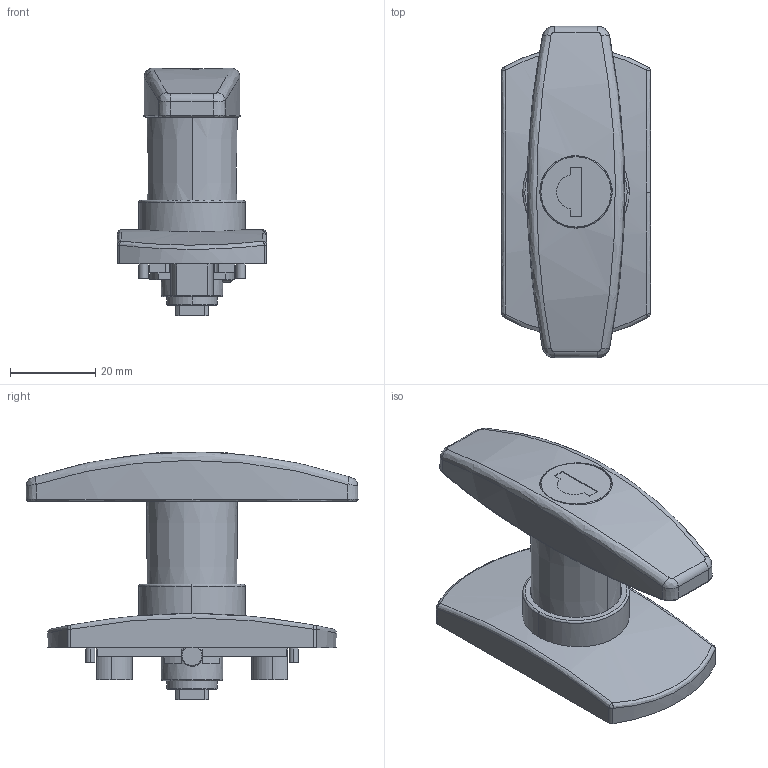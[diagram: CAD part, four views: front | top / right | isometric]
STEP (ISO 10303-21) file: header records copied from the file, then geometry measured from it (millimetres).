
FILE_DESCRIPTION (( 'STEP AP214' ), '1' );
FILE_NAME ('RW510.STEP', '2016-09-08T05:57:45', ( '' ), ( '' ), 'SwSTEP 2.0', 'SolidWorks 2015', '' );
FILE_SCHEMA (( 'AUTOMOTIVE_DESIGN' ));
Length unit declared in the file: millimetre
Products named in the file (9): DIN 913_M3x4; 2.PM18.001.03_A; 1B.RW500.001.01_A; 1B.RW200.00.03_A; RW510; 2.A001.005_A.3; 2.B.003_EL; DIN 3771_12x3; 2.T18.001.02_A
Assembly tree (8 placements, depth 2):
  RW510
    1B.RW200.00.03_A
    1B.RW500.001.01_A
    2.PM18.001.03_A
    DIN 913_M3x4
    2.T18.001.02_A
    DIN 3771_12x3
    2.B.003_EL
    2.A001.005_A.3
Bounding box: 35 x 77.98 x 58.2 mm (x, y, z)
Volume: 37044.2 mm3; surface area: 24684.2 mm2
Topology: 8 solids, 8 shells, 435 faces, 1112 edges, 706 vertices
Faces by surface type: plane 201, cylinder 120, cone 63, bspline 43, torus 8
Entity records: 22249 total; most frequent: CARTESIAN_POINT 9222, ORIENTED_EDGE 2208, DIRECTION 2142, EDGE_CURVE 1104, AXIS2_PLACEMENT_3D 802, VERTEX_POINT 706, LINE 538, VECTOR 538
